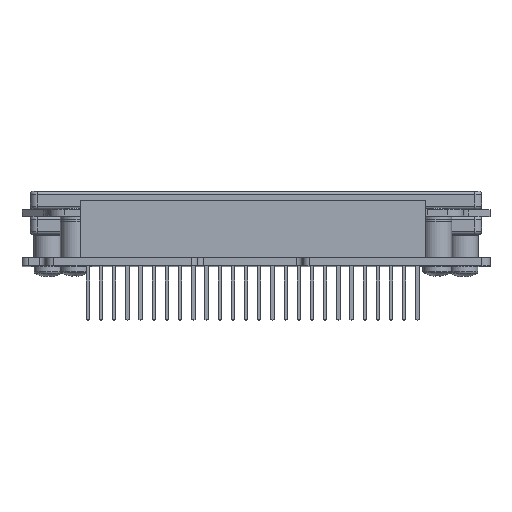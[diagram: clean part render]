
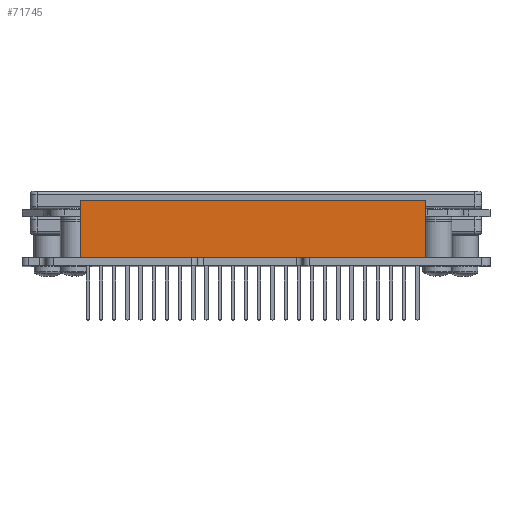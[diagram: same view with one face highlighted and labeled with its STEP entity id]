
A CAD part, top view. The second image highlights one B-rep face of the part: STEP entity #71745.
In plain terms, the highlighted planar face has unit normal (0, 0, 1).
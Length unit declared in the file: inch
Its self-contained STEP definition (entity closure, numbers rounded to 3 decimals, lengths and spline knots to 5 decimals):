
#1620 = DIRECTION ( 'NONE',  ( 0., 0., -1. ) ) ;
#7370 = ORIENTED_EDGE ( 'NONE', *, *, #24006, .T. ) ;
#7690 = CARTESIAN_POINT ( 'NONE',  ( -1.335, 0.031, 1.7375 ) ) ;
#13220 = CARTESIAN_POINT ( 'NONE',  ( -1.335, 0.466, 1.7375 ) ) ;
#13537 = FACE_OUTER_BOUND ( 'NONE', #25723, .T. ) ;
#16367 = DIRECTION ( 'NONE',  ( 0., -1., 0. ) ) ;
#16745 = EDGE_CURVE ( 'NONE', #89559, #85684, #63833, .T. ) ;
#17434 = EDGE_CURVE ( 'NONE', #62006, #89559, #66609, .T. ) ;
#17628 = CARTESIAN_POINT ( 'NONE',  ( 1.285, 0.466, 1.7375 ) ) ;
#20311 = ORIENTED_EDGE ( 'NONE', *, *, #33678, .T. ) ;
#21430 = CARTESIAN_POINT ( 'NONE',  ( -1.335, 0.466, 1.7375 ) ) ;
#24006 = EDGE_CURVE ( 'NONE', #62006, #44870, #87953, .T. ) ;
#25117 = CARTESIAN_POINT ( 'NONE',  ( 1.285, 0.466, 1.7375 ) ) ;
#25723 = EDGE_LOOP ( 'NONE', ( #20311, #59387, #76593, #7370 ) ) ;
#29199 = DIRECTION ( 'NONE',  ( 1., 0., 0. ) ) ;
#33678 = EDGE_CURVE ( 'NONE', #44870, #85684, #84384, .T. ) ;
#41672 = VECTOR ( 'NONE', #16367, 39.37008 ) ;
#44870 = VERTEX_POINT ( 'NONE', #7690 ) ;
#46380 = CARTESIAN_POINT ( 'NONE',  ( -1.335, 0.466, 1.7375 ) ) ;
#53875 = DIRECTION ( 'NONE',  ( -1., 0., 0. ) ) ;
#59387 = ORIENTED_EDGE ( 'NONE', *, *, #16745, .F. ) ;
#62006 = VERTEX_POINT ( 'NONE', #13220 ) ;
#62231 = VECTOR ( 'NONE', #29199, 39.37008 ) ;
#63833 = LINE ( 'NONE', #17628, #41672 ) ;
#66199 = DIRECTION ( 'NONE',  ( 0., -1., 0. ) ) ;
#66609 = LINE ( 'NONE', #89425, #81775 ) ;
#68083 = VECTOR ( 'NONE', #66199, 39.37008 ) ;
#71745 = ADVANCED_FACE ( 'NONE', ( #13537 ), #83264, .F. ) ;
#75134 = AXIS2_PLACEMENT_3D ( 'NONE', #46380, #1620, #53875 ) ;
#76593 = ORIENTED_EDGE ( 'NONE', *, *, #17434, .F. ) ;
#81446 = CARTESIAN_POINT ( 'NONE',  ( -1.335, 0.031, 1.7375 ) ) ;
#81775 = VECTOR ( 'NONE', #89636, 39.37008 ) ;
#83264 = PLANE ( 'NONE',  #75134 ) ;
#84384 = LINE ( 'NONE', #81446, #62231 ) ;
#85684 = VERTEX_POINT ( 'NONE', #89607 ) ;
#87953 = LINE ( 'NONE', #21430, #68083 ) ;
#89425 = CARTESIAN_POINT ( 'NONE',  ( -1.335, 0.466, 1.7375 ) ) ;
#89559 = VERTEX_POINT ( 'NONE', #25117 ) ;
#89607 = CARTESIAN_POINT ( 'NONE',  ( 1.285, 0.031, 1.7375 ) ) ;
#89636 = DIRECTION ( 'NONE',  ( 1., 0., 0. ) ) ;
